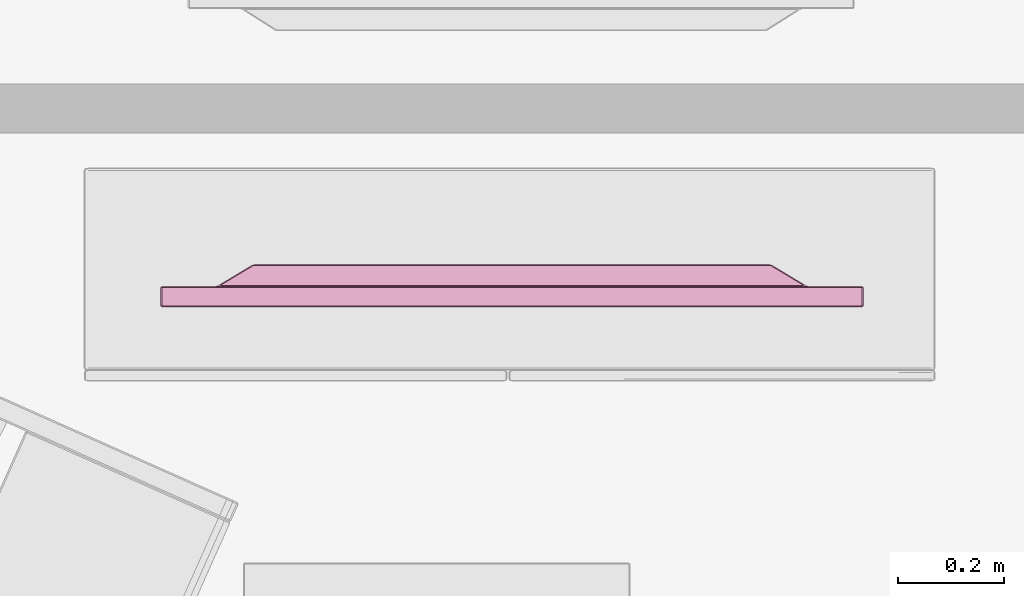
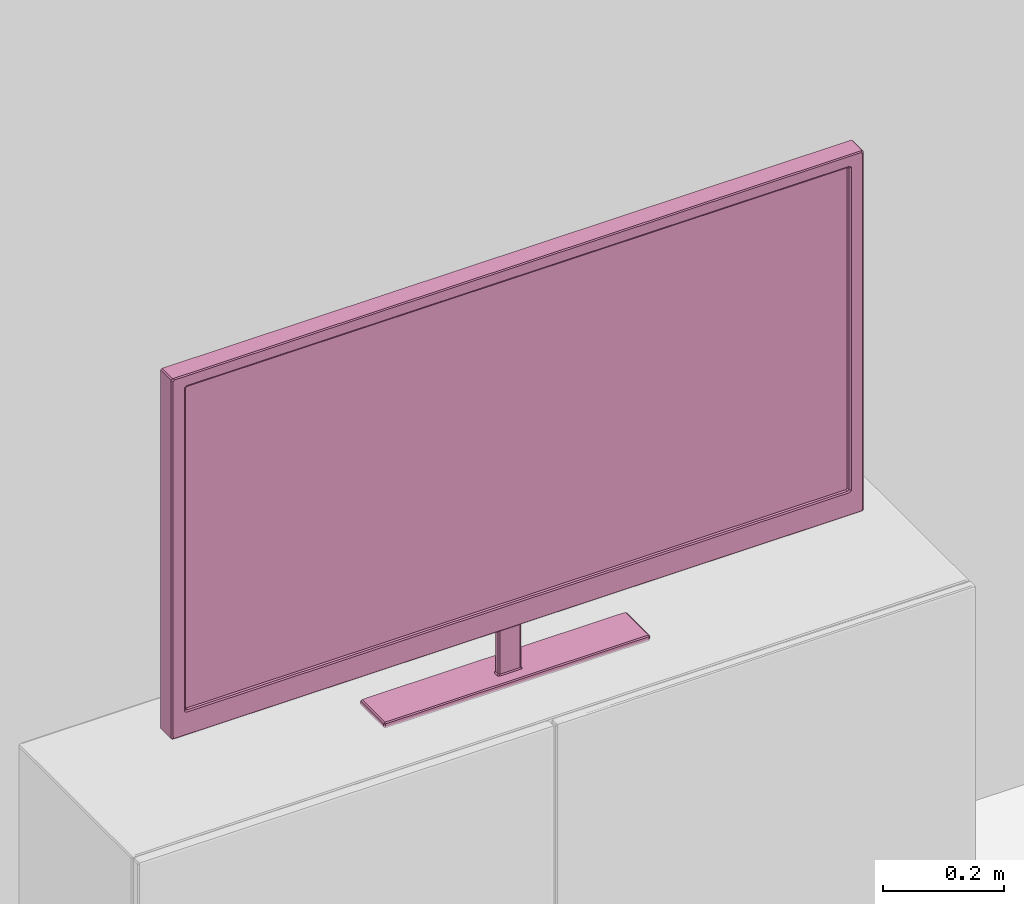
# One storey, part 12 of 26: 1 furniture element.
"""IFC4 building model written with IfcOpenShell, lengths in metres."""

from ifc_helpers import new_model, si_unit, direction, frame, origin_with_axes, place, context, project, spatial, polygons, type_object, element, save


model = new_model("IFC4")

# Units and contexts
model_context = context("Model", 3, precision=1e-05, world=origin_with_axes(), true_north=direction((0.996, -0.093, 0.0)))
ifc_project = project(units=[si_unit("LENGTHUNIT", "METRE"), si_unit("AREAUNIT", "SQUARE_METRE")], contexts=[model_context])

# Site, building, storey, space
site_placement = place(None, origin_with_axes())
site = spatial("IfcSite", under=ifc_project, at=site_placement, Name="Site", CompositionType="ELEMENT")
building_placement = place(site_placement, origin_with_axes())
building = spatial("IfcBuilding", under=site, at=building_placement, Name="Building", CompositionType="ELEMENT")
storey_placement = place(building_placement, frame((0.0, 0.0, 0.0500001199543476), z_axis=(0.0, 0.0, 1.0), x_axis=(1.0, 0.0, 0.0)))
storey = spatial("IfcBuildingStorey", under=building, at=storey_placement, Name="Story 0", CompositionType="ELEMENT", Elevation=0.0500000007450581)
space_placement = place(storey_placement, frame((9.93545334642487, 0.769256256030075, 0.0), z_axis=(0.0, 0.0, 1.0), x_axis=(1.0, 0.0, 0.0)))
space = spatial("IfcSpace", under=storey, at=space_placement, Name="021", CompositionType="ELEMENT")

# Furniture
furniture_type = type_object("IfcFurnitureType", Name="80757f26-422a-486f-adbd-0c8f0950d08d", AssemblyPlace="NOTDEFINED", PredefinedType="USERDEFINED")
furniture_placement = place(space_placement, frame((-1.20295136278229, -0.287239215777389, 1.22750790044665), z_axis=(0.0, 0.0, 0.999999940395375), x_axis=(0.0, -0.999999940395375, 0.0)))
element("IfcFurniture", 1, at=furniture_placement, inside=space, type_object=furniture_type, Name="Television", ObjectType="Television", PredefinedType="USERDEFINED", context=model_context, shape_type="Tessellation", body=[
    polygons([(0.0288, -0.6267, -0.2505), (0.0288, 0.6267, -0.2505), (0.0288, -0.6292, -0.2482), (0.0288, -0.6292, 0.3928), (0.0288, -0.6292, -0.2482), (0.0288, -0.6267, 0.3951), (0.0288, 0.6267, 0.3951), (0.0288, -0.6267, 0.3951), (0.0288, 0.6292, 0.3928), (0.0288, -0.6267, 0.3951), (0.0288, -0.6292, -0.2482), (0.0288, 0.6292, 0.3928), (0.0288, -0.6292, -0.2482), (0.0288, 0.6267, -0.2505), (0.0288, 0.6292, 0.3928), (0.0288, 0.6267, -0.2505), (0.0288, 0.6292, -0.2482), (0.0288, 0.6292, 0.3928), (0.003, -0.6609, 0.4215), (0.003, -0.6609, -0.3021), (0.038, -0.6609, 0.4215), (0.038, -0.6609, -0.3021), (0.038, -0.6609, 0.4215), (0.003, -0.6609, -0.3021), (0.003, 0.6609, -0.3021), (0.003, 0.6609, 0.4215), (0.038, 0.6609, -0.3021), (0.038, 0.6609, 0.4215), (0.038, 0.6609, -0.3021), (0.003, 0.6609, 0.4215), (0.003, 0.6584, 0.4237), (0.003, -0.6584, 0.4237), (0.038, 0.6584, 0.4237), (0.038, -0.6584, 0.4237), (0.038, 0.6584, 0.4237), (0.003, -0.6584, 0.4237), (0.0143, -0.0228, -0.2782), (0.0062, -0.0228, -0.2782), (0.0143, -0.0228, -0.4092), (0.0062, -0.0228, -0.4092), (0.0143, -0.0228, -0.4092), (0.0062, -0.0228, -0.2782), (0.0162, 0.0181, -0.2782), (0.0162, -0.0203, -0.2782), (0.0162, 0.0181, -0.4092), (0.0162, -0.0203, -0.4092), (0.0162, 0.0181, -0.4092), (0.0162, -0.0203, -0.2782), (0.0062, 0.0205, -0.2782), (0.0143, 0.0205, -0.2782), (0.0062, 0.0205, -0.4092), (0.0143, 0.0205, -0.4092), (0.0062, 0.0205, -0.4092), (0.0143, 0.0205, -0.2782), (-0.04, 0.4844, -0.1705), (-0.04, -0.4844, -0.1705), (-0.04, 0.4844, 0.2899), (-0.04, -0.4844, 0.2899), (-0.04, 0.4844, 0.2899), (-0.04, -0.4844, -0.1705), (0.0043, 0.0181, -0.4092), (0.0043, -0.0203, -0.4092), (0.0043, 0.0181, -0.2782), (0.0043, -0.0203, -0.2782), (0.0043, 0.0181, -0.2782), (0.0043, -0.0203, -0.4092), (0.038, -0.6584, -0.3044), (0.003, -0.6584, -0.3044), (0.038, 0.6584, -0.3044), (0.003, 0.6584, -0.3044), (0.038, 0.6584, -0.3044), (0.003, -0.6584, -0.3044), (-0.0379, -0.2528, -0.4237), (-0.0379, 0.2505, -0.4237), (0.0382, -0.2528, -0.4237), (0.0382, 0.2505, -0.4237), (0.0382, -0.2528, -0.4237), (-0.0379, 0.2505, -0.4237), (0.0399, -0.6326, -0.2572), (0.0399, -0.657, -0.3021), (0.0399, 0.6326, -0.2572), (0.0399, 0.657, -0.3021), (0.0399, 0.6326, -0.2572), (0.0399, -0.657, -0.3021), (0.0399, -0.6366, 0.3986), (0.0399, -0.6584, 0.4184), (0.0399, -0.6366, -0.2545), (0.0399, -0.6584, -0.2948), (0.0399, -0.6366, -0.2545), (0.0399, -0.6584, 0.4184), (0.0399, 0.6331, 0.4018), (0.0399, 0.655, 0.4215), (0.0399, -0.6331, 0.4018), (0.0399, -0.655, 0.4215), (0.0399, -0.6331, 0.4018), (0.0399, 0.655, 0.4215), (0.0399, 0.6584, -0.2948), (0.0399, 0.6584, 0.4184), (0.0399, 0.6366, -0.2545), (0.0399, 0.6366, 0.3986), (0.0399, 0.6366, -0.2545), (0.0399, 0.6584, 0.4184), (0.0288, -0.6267, -0.2505), (0.0381, -0.6308, -0.2543), (0.0288, 0.6267, -0.2505), (0.0381, 0.6308, -0.2543), (0.0288, 0.6267, -0.2505), (0.0381, -0.6308, -0.2543), (0.0288, -0.6292, 0.3928), (0.0381, -0.6334, 0.3965), (0.0288, -0.6292, -0.2482), (0.0381, -0.6334, -0.2519), (0.0288, -0.6292, -0.2482), (0.0381, -0.6334, 0.3965), (0.0288, 0.6267, 0.3951), (0.0381, 0.6308, 0.3988), (0.0288, -0.6267, 0.3951), (0.0381, -0.6308, 0.3988), (0.0288, -0.6267, 0.3951), (0.0381, 0.6308, 0.3988), (0.0288, 0.6292, -0.2482), (0.0381, 0.6334, -0.2519), (0.0288, 0.6292, 0.3928), (0.0381, 0.6334, 0.3965), (0.0288, 0.6292, 0.3928), (0.0381, 0.6334, -0.2519), (0.0011, -0.5579, -0.2134), (0.0011, -0.6584, -0.2992), (0.0011, -0.5579, 0.3327), (0.0011, -0.6584, 0.4186), (0.0011, -0.5579, 0.3327), (0.0011, -0.6584, -0.2992), (0.0011, 0.5545, -0.2165), (0.0011, 0.6547, -0.3021), (0.0011, -0.5545, -0.2165), (0.0011, -0.6547, -0.3021), (0.0011, -0.5545, -0.2165), (0.0011, 0.6547, -0.3021), (0.0011, 0.5579, 0.3327), (0.0011, 0.6584, 0.4186), (0.0011, 0.5579, -0.2134), (0.0011, 0.6584, -0.2992), (0.0011, 0.5579, -0.2134), (0.0011, 0.6584, 0.4186), (0.0011, -0.5545, 0.3359), (0.0011, -0.6547, 0.4215), (0.0011, 0.5545, 0.3359), (0.0011, 0.6547, 0.4215), (0.0011, 0.5545, 0.3359), (0.0011, -0.6547, 0.4215), (-0.0389, -0.4888, 0.2908), (-0.0389, -0.4888, -0.1714), (0.0, -0.5535, 0.33), (0.0, -0.5535, -0.2107), (0.0, -0.5535, 0.33), (-0.0389, -0.4888, -0.1714), (-0.0386, -0.4858, -0.1742), (-0.0386, 0.4858, -0.1742), (-0.0003, -0.5497, -0.2129), (-0.0003, 0.5497, -0.2129), (-0.0003, -0.5497, -0.2129), (-0.0386, 0.4858, -0.1742), (-0.0389, 0.4888, -0.1714), (-0.0389, 0.4888, 0.2908), (0.0, 0.5535, -0.2107), (0.0, 0.5535, 0.33), (0.0, 0.5535, -0.2107), (-0.0389, 0.4888, 0.2908), (-0.0386, 0.4858, 0.2935), (-0.0386, -0.4858, 0.2935), (-0.0003, 0.5497, 0.3323), (-0.0003, -0.5497, 0.3323), (-0.0003, 0.5497, 0.3323), (-0.0386, -0.4858, 0.2935), (0.04, 0.2505, -0.4215), (0.04, 0.2505, -0.4138), (0.04, -0.2528, -0.4215), (0.04, -0.2528, -0.4138), (0.04, -0.2528, -0.4215), (0.04, 0.2505, -0.4138), (-0.0379, 0.253, -0.4215), (-0.0379, 0.253, -0.4138), (0.0382, 0.253, -0.4215), (0.0382, 0.253, -0.4138), (0.0382, 0.253, -0.4215), (-0.0379, 0.253, -0.4138), (-0.0397, -0.2528, -0.4215), (-0.0397, -0.2528, -0.4138), (-0.0397, 0.2505, -0.4215), (-0.0397, 0.2505, -0.4138), (-0.0397, 0.2505, -0.4215), (-0.0397, -0.2528, -0.4138), (0.0382, -0.2552, -0.4215), (0.0382, -0.2552, -0.4138), (-0.0379, -0.2552, -0.4215), (-0.0379, -0.2552, -0.4138), (-0.0379, -0.2552, -0.4215), (0.0382, -0.2552, -0.4138), (-0.0374, -0.2528, -0.4115), (0.0379, -0.2528, -0.4115), (0.0058, -0.0252, -0.4115), (0.0146, -0.0252, -0.4115), (0.0058, -0.0252, -0.4115), (0.0379, -0.2528, -0.4115), (0.0025, 0.0202, -0.4115), (-0.0379, 0.2332, -0.4115), (0.0025, -0.0225, -0.4115), (-0.0379, -0.2355, -0.4115), (0.0025, -0.0225, -0.4115), (-0.0379, 0.2332, -0.4115), (0.0146, 0.023, -0.4115), (0.0379, 0.2505, -0.4116), (0.0058, 0.023, -0.4115), (-0.0374, 0.2505, -0.4116), (0.0058, 0.023, -0.4115), (0.0379, 0.2505, -0.4116), (0.018, -0.0226, -0.4115), (0.0382, -0.2191, -0.4115), (0.018, 0.0204, -0.4115), (0.0382, 0.2169, -0.4115), (0.018, 0.0204, -0.4115), (0.0382, -0.2191, -0.4115), (0.0346, -0.6464, -0.2633), (0.0346, 0.6464, -0.2633), (0.0346, -0.6464, 0.4078), (0.0346, 0.6464, 0.4078), (0.0346, -0.6464, 0.4078), (0.0346, 0.6464, -0.2633), (0.0399, -0.655, 0.4215), (0.038, -0.6584, 0.4237), (0.0399, -0.6584, 0.4184), (0.038, -0.6609, 0.4215), (0.0399, -0.6584, 0.4184), (0.038, -0.6584, 0.4237), (0.0011, 0.6547, 0.4215), (0.003, 0.6584, 0.4237), (0.0011, 0.6584, 0.4186), (0.003, 0.6609, 0.4215), (0.0011, 0.6584, 0.4186), (0.003, 0.6584, 0.4237), (0.0399, 0.6584, 0.4184), (0.038, 0.6609, 0.4215), (0.0399, 0.655, 0.4215), (0.038, 0.6584, 0.4237), (0.0399, 0.655, 0.4215), (0.038, 0.6609, 0.4215), (0.0058, -0.0252, -0.4115), (0.0062, -0.0228, -0.4092), (0.0025, -0.0225, -0.4115), (0.0043, -0.0203, -0.4092), (0.0025, -0.0225, -0.4115), (0.0062, -0.0228, -0.4092), (0.0146, -0.0252, -0.4115), (0.018, -0.0226, -0.4115), (0.0143, -0.0228, -0.4092), (0.0162, -0.0203, -0.4092), (0.0143, -0.0228, -0.4092), (0.018, -0.0226, -0.4115), (0.0146, 0.023, -0.4115), (0.0143, 0.0205, -0.4092), (0.018, 0.0204, -0.4115), (0.0162, 0.0181, -0.4092), (0.018, 0.0204, -0.4115), (0.0143, 0.0205, -0.4092), (-0.0386, -0.4858, 0.2935), (-0.04, -0.4844, 0.2899), (-0.0389, -0.4888, 0.2908), (0.0058, 0.023, -0.4115), (0.0025, 0.0202, -0.4115), (0.0062, 0.0205, -0.4092), (0.0043, 0.0181, -0.4092), (0.0062, 0.0205, -0.4092), (0.0025, 0.0202, -0.4115), (0.0011, -0.6547, -0.3021), (0.003, -0.6584, -0.3044), (0.0011, -0.6584, -0.2992), (0.003, -0.6609, -0.3021), (0.0011, -0.6584, -0.2992), (0.003, -0.6584, -0.3044), (0.0399, -0.6584, -0.2948), (0.038, -0.6609, -0.3021), (0.0399, -0.657, -0.3021), (0.038, -0.6584, -0.3044), (0.0399, -0.657, -0.3021), (0.038, -0.6609, -0.3021), (0.0382, -0.2552, -0.4215), (0.0382, -0.2528, -0.4237), (0.04, -0.2528, -0.4215), (0.0399, 0.6584, -0.2948), (0.0399, 0.657, -0.3021), (0.038, 0.6609, -0.3021), (0.038, 0.6584, -0.3044), (0.038, 0.6609, -0.3021), (0.0399, 0.657, -0.3021), (0.0381, -0.6334, -0.2519), (0.0399, -0.6366, -0.2545), (0.0381, -0.6308, -0.2543), (0.0399, -0.6326, -0.2572), (0.0381, -0.6308, -0.2543), (0.0399, -0.6366, -0.2545), (0.0381, -0.6308, 0.3988), (0.0399, -0.6331, 0.4018), (0.0381, -0.6334, 0.3965), (0.0399, -0.6366, 0.3986), (0.0381, -0.6334, 0.3965), (0.0399, -0.6331, 0.4018), (0.0381, 0.6334, 0.3965), (0.0399, 0.6366, 0.3986), (0.0381, 0.6308, 0.3988), (0.0399, 0.6331, 0.4018), (0.0381, 0.6308, 0.3988), (0.0399, 0.6366, 0.3986), (0.0381, 0.6334, -0.2519), (0.0381, 0.6308, -0.2543), (0.0399, 0.6366, -0.2545), (0.0399, 0.6326, -0.2572), (0.0399, 0.6366, -0.2545), (0.0381, 0.6308, -0.2543), (0.0011, -0.6547, 0.4215), (0.0011, -0.6584, 0.4186), (0.003, -0.6584, 0.4237), (0.003, -0.6609, 0.4215), (0.003, -0.6584, 0.4237), (0.0011, -0.6584, 0.4186), (-0.0003, -0.5497, 0.3323), (0.0, -0.5535, 0.33), (0.0011, -0.5545, 0.3359), (0.0011, -0.5579, 0.3327), (0.0011, -0.5545, 0.3359), (0.0, -0.5535, 0.33), (-0.0003, -0.5497, -0.2129), (0.0011, -0.5545, -0.2165), (0.0, -0.5535, -0.2107), (0.0011, -0.5579, -0.2134), (0.0, -0.5535, -0.2107), (0.0011, -0.5545, -0.2165), (0.0011, 0.6547, -0.3021), (0.0011, 0.6584, -0.2992), (0.003, 0.6584, -0.3044), (0.003, 0.6609, -0.3021), (0.003, 0.6584, -0.3044), (0.0011, 0.6584, -0.2992), (-0.0003, 0.5497, -0.2129), (0.0, 0.5535, -0.2107), (0.0011, 0.5545, -0.2165), (0.0011, 0.5579, -0.2134), (0.0011, 0.5545, -0.2165), (0.0, 0.5535, -0.2107), (-0.0003, 0.5497, 0.3323), (0.0011, 0.5545, 0.3359), (0.0, 0.5535, 0.33), (0.0011, 0.5579, 0.3327), (0.0, 0.5535, 0.33), (0.0011, 0.5545, 0.3359), (-0.0386, -0.4858, -0.1742), (-0.0389, -0.4888, -0.1714), (-0.04, -0.4844, -0.1705), (-0.0389, 0.4888, -0.1714), (-0.0386, 0.4858, -0.1742), (-0.04, 0.4844, -0.1705), (-0.0386, 0.4858, 0.2935), (-0.0389, 0.4888, 0.2908), (-0.04, 0.4844, 0.2899), (0.0382, 0.253, -0.4215), (0.04, 0.2505, -0.4215), (0.0382, 0.2505, -0.4237), (-0.0397, 0.2505, -0.4215), (-0.0379, 0.253, -0.4215), (-0.0379, 0.2505, -0.4237), (-0.0379, -0.2552, -0.4215), (-0.0397, -0.2528, -0.4215), (-0.0379, -0.2528, -0.4237), (-0.0379, -0.2355, -0.4115), (-0.0397, -0.2528, -0.4138), (-0.0374, -0.2528, -0.4115), (-0.0379, -0.2552, -0.4138), (-0.0374, -0.2528, -0.4115), (-0.0397, -0.2528, -0.4138), (0.0382, -0.2191, -0.4115), (0.0379, -0.2528, -0.4115), (0.04, -0.2528, -0.4138), (0.0382, -0.2552, -0.4138), (0.04, -0.2528, -0.4138), (0.0379, -0.2528, -0.4115), (-0.0379, 0.2332, -0.4115), (-0.0374, 0.2505, -0.4116), (-0.0397, 0.2505, -0.4138), (-0.0379, 0.253, -0.4138), (-0.0397, 0.2505, -0.4138), (-0.0374, 0.2505, -0.4116), (0.0382, 0.253, -0.4138), (0.0379, 0.2505, -0.4116), (0.04, 0.2505, -0.4138), (0.0382, 0.2169, -0.4115), (0.04, 0.2505, -0.4138), (0.0379, 0.2505, -0.4116), (0.038, -0.6609, -0.3021), (0.003, -0.6609, -0.3021), (0.038, -0.6584, -0.3044), (0.003, -0.6584, -0.3044), (0.038, -0.6584, -0.3044), (0.003, -0.6609, -0.3021), (0.003, -0.6609, 0.4215), (0.038, -0.6609, 0.4215), (0.003, -0.6584, 0.4237), (0.038, -0.6584, 0.4237), (0.003, -0.6584, 0.4237), (0.038, -0.6609, 0.4215), (0.038, 0.6609, 0.4215), (0.003, 0.6609, 0.4215), (0.038, 0.6584, 0.4237), (0.003, 0.6584, 0.4237), (0.038, 0.6584, 0.4237), (0.003, 0.6609, 0.4215), (0.003, 0.6609, -0.3021), (0.038, 0.6609, -0.3021), (0.003, 0.6584, -0.3044), (0.038, 0.6584, -0.3044), (0.003, 0.6584, -0.3044), (0.038, 0.6609, -0.3021), (0.0062, -0.0228, -0.4092), (0.0062, -0.0228, -0.2782), (0.0043, -0.0203, -0.4092), (0.0043, -0.0203, -0.2782), (0.0043, -0.0203, -0.4092), (0.0062, -0.0228, -0.2782), (0.0143, -0.0228, -0.2782), (0.0143, -0.0228, -0.4092), (0.0162, -0.0203, -0.2782), (0.0162, -0.0203, -0.4092), (0.0162, -0.0203, -0.2782), (0.0143, -0.0228, -0.4092), (0.0162, 0.0181, -0.2782), (0.0162, 0.0181, -0.4092), (0.0143, 0.0205, -0.2782), (0.0143, 0.0205, -0.4092), (0.0143, 0.0205, -0.2782), (0.0162, 0.0181, -0.4092), (0.0062, 0.0205, -0.2782), (0.0062, 0.0205, -0.4092), (0.0043, 0.0181, -0.2782), (0.0043, 0.0181, -0.4092), (0.0043, 0.0181, -0.2782), (0.0062, 0.0205, -0.4092), (-0.04, -0.4844, 0.2899), (-0.04, -0.4844, -0.1705), (-0.0389, -0.4888, 0.2908), (-0.0389, -0.4888, -0.1714), (-0.0389, -0.4888, 0.2908), (-0.04, -0.4844, -0.1705), (-0.04, -0.4844, -0.1705), (-0.04, 0.4844, -0.1705), (-0.0386, -0.4858, -0.1742), (-0.0386, 0.4858, -0.1742), (-0.0386, -0.4858, -0.1742), (-0.04, 0.4844, -0.1705), (-0.04, 0.4844, -0.1705), (-0.04, 0.4844, 0.2899), (-0.0389, 0.4888, -0.1714), (-0.0389, 0.4888, 0.2908), (-0.0389, 0.4888, -0.1714), (-0.04, 0.4844, 0.2899), (-0.04, 0.4844, 0.2899), (-0.04, -0.4844, 0.2899), (-0.0386, 0.4858, 0.2935), (-0.0386, -0.4858, 0.2935), (-0.0386, 0.4858, 0.2935), (-0.04, -0.4844, 0.2899), (0.0382, 0.2505, -0.4237), (-0.0379, 0.2505, -0.4237), (0.0382, 0.253, -0.4215), (-0.0379, 0.253, -0.4215), (0.0382, 0.253, -0.4215), (-0.0379, 0.2505, -0.4237), (-0.0379, 0.2505, -0.4237), (-0.0379, -0.2528, -0.4237), (-0.0397, 0.2505, -0.4215), (-0.0397, -0.2528, -0.4215), (-0.0397, 0.2505, -0.4215), (-0.0379, -0.2528, -0.4237), (-0.0379, -0.2528, -0.4237), (0.0382, -0.2528, -0.4237), (-0.0379, -0.2552, -0.4215), (0.0382, -0.2552, -0.4215), (-0.0379, -0.2552, -0.4215), (0.0382, -0.2528, -0.4237), (0.0382, -0.2528, -0.4237), (0.0382, 0.2505, -0.4237), (0.04, -0.2528, -0.4215), (0.04, 0.2505, -0.4215), (0.04, -0.2528, -0.4215), (0.0382, 0.2505, -0.4237), (0.0399, 0.657, -0.3021), (0.0399, -0.657, -0.3021), (0.038, 0.6584, -0.3044), (0.038, -0.6584, -0.3044), (0.038, 0.6584, -0.3044), (0.0399, -0.657, -0.3021), (0.0399, -0.657, -0.3021), (0.0399, -0.6326, -0.2572), (0.0399, -0.6584, -0.2948), (0.0399, -0.6366, -0.2545), (0.0399, -0.6584, -0.2948), (0.0399, -0.6326, -0.2572), (0.0399, -0.6584, -0.2948), (0.0399, -0.6584, 0.4184), (0.038, -0.6609, -0.3021), (0.038, -0.6609, 0.4215), (0.038, -0.6609, -0.3021), (0.0399, -0.6584, 0.4184), (0.0399, -0.6584, 0.4184), (0.0399, -0.6366, 0.3986), (0.0399, -0.655, 0.4215), (0.0399, -0.6331, 0.4018), (0.0399, -0.655, 0.4215), (0.0399, -0.6366, 0.3986), (0.0399, -0.655, 0.4215), (0.0399, 0.655, 0.4215), (0.038, -0.6584, 0.4237), (0.038, 0.6584, 0.4237), (0.038, -0.6584, 0.4237), (0.0399, 0.655, 0.4215), (0.0399, 0.655, 0.4215), (0.0399, 0.6331, 0.4018), (0.0399, 0.6584, 0.4184), (0.0399, 0.6366, 0.3986), (0.0399, 0.6584, 0.4184), (0.0399, 0.6331, 0.4018), (0.0399, 0.6584, 0.4184), (0.0399, 0.6584, -0.2948), (0.038, 0.6609, 0.4215), (0.038, 0.6609, -0.3021), (0.038, 0.6609, 0.4215), (0.0399, 0.6584, -0.2948), (0.0399, 0.6584, -0.2948), (0.0399, 0.6366, -0.2545), (0.0399, 0.657, -0.3021), (0.0399, 0.6326, -0.2572), (0.0399, 0.657, -0.3021), (0.0399, 0.6366, -0.2545), (0.0381, 0.6308, -0.2543), (0.0381, -0.6308, -0.2543), (0.0399, 0.6326, -0.2572), (0.0399, -0.6326, -0.2572), (0.0399, 0.6326, -0.2572), (0.0381, -0.6308, -0.2543), (0.0381, -0.6308, -0.2543), (0.0288, -0.6267, -0.2505), (0.0381, -0.6334, -0.2519), (0.0288, -0.6292, -0.2482), (0.0381, -0.6334, -0.2519), (0.0288, -0.6267, -0.2505), (0.0381, -0.6334, -0.2519), (0.0381, -0.6334, 0.3965), (0.0399, -0.6366, -0.2545), (0.0399, -0.6366, 0.3986), (0.0399, -0.6366, -0.2545), (0.0381, -0.6334, 0.3965), (0.0381, -0.6334, 0.3965), (0.0288, -0.6292, 0.3928), (0.0381, -0.6308, 0.3988), (0.0288, -0.6267, 0.3951), (0.0381, -0.6308, 0.3988), (0.0288, -0.6292, 0.3928), (0.0381, -0.6308, 0.3988), (0.0381, 0.6308, 0.3988), (0.0399, -0.6331, 0.4018), (0.0399, 0.6331, 0.4018), (0.0399, -0.6331, 0.4018), (0.0381, 0.6308, 0.3988), (0.0381, 0.6308, 0.3988), (0.0288, 0.6267, 0.3951), (0.0381, 0.6334, 0.3965), (0.0288, 0.6292, 0.3928), (0.0381, 0.6334, 0.3965), (0.0288, 0.6267, 0.3951), (0.0381, 0.6334, 0.3965), (0.0381, 0.6334, -0.2519), (0.0399, 0.6366, 0.3986), (0.0399, 0.6366, -0.2545), (0.0399, 0.6366, 0.3986), (0.0381, 0.6334, -0.2519), (0.0381, 0.6334, -0.2519), (0.0288, 0.6292, -0.2482), (0.0381, 0.6308, -0.2543), (0.0288, 0.6267, -0.2505), (0.0381, 0.6308, -0.2543), (0.0288, 0.6292, -0.2482), (0.0011, -0.6584, 0.4186), (0.0011, -0.6584, -0.2992), (0.003, -0.6609, 0.4215), (0.003, -0.6609, -0.3021), (0.003, -0.6609, 0.4215), (0.0011, -0.6584, -0.2992), (0.0011, -0.6584, -0.2992), (0.0011, -0.5579, -0.2134), (0.0011, -0.6547, -0.3021), (0.0011, -0.5545, -0.2165), (0.0011, -0.6547, -0.3021), (0.0011, -0.5579, -0.2134), (0.0011, -0.5579, -0.2134), (0.0011, -0.5579, 0.3327), (0.0, -0.5535, -0.2107), (0.0, -0.5535, 0.33), (0.0, -0.5535, -0.2107), (0.0011, -0.5579, 0.3327), (0.0011, -0.6547, -0.3021), (0.0011, 0.6547, -0.3021), (0.003, -0.6584, -0.3044), (0.003, 0.6584, -0.3044), (0.003, -0.6584, -0.3044), (0.0011, 0.6547, -0.3021), (0.0011, 0.6547, -0.3021), (0.0011, 0.5545, -0.2165), (0.0011, 0.6584, -0.2992), (0.0011, 0.5579, -0.2134), (0.0011, 0.6584, -0.2992), (0.0011, 0.5545, -0.2165), (0.0011, 0.5545, -0.2165), (0.0011, -0.5545, -0.2165), (-0.0003, 0.5497, -0.2129), (-0.0003, -0.5497, -0.2129), (-0.0003, 0.5497, -0.2129), (0.0011, -0.5545, -0.2165), (0.0011, 0.6584, -0.2992), (0.0011, 0.6584, 0.4186), (0.003, 0.6609, -0.3021), (0.003, 0.6609, 0.4215), (0.003, 0.6609, -0.3021), (0.0011, 0.6584, 0.4186), (0.0011, 0.6584, 0.4186), (0.0011, 0.5579, 0.3327), (0.0011, 0.6547, 0.4215), (0.0011, 0.5545, 0.3359), (0.0011, 0.6547, 0.4215), (0.0011, 0.5579, 0.3327), (0.0011, 0.5579, 0.3327), (0.0011, 0.5579, -0.2134), (0.0, 0.5535, 0.33), (0.0, 0.5535, -0.2107), (0.0, 0.5535, 0.33), (0.0011, 0.5579, -0.2134), (0.0011, 0.6547, 0.4215), (0.0011, -0.6547, 0.4215), (0.003, 0.6584, 0.4237), (0.003, -0.6584, 0.4237), (0.003, 0.6584, 0.4237), (0.0011, -0.6547, 0.4215), (0.0011, -0.6547, 0.4215), (0.0011, -0.5545, 0.3359), (0.0011, -0.6584, 0.4186), (0.0011, -0.5579, 0.3327), (0.0011, -0.6584, 0.4186), (0.0011, -0.5545, 0.3359), (0.0011, -0.5545, 0.3359), (0.0011, 0.5545, 0.3359), (-0.0003, -0.5497, 0.3323), (-0.0003, 0.5497, 0.3323), (-0.0003, -0.5497, 0.3323), (0.0011, 0.5545, 0.3359), (0.0, -0.5535, -0.2107), (-0.0389, -0.4888, -0.1714), (-0.0003, -0.5497, -0.2129), (-0.0386, -0.4858, -0.1742), (-0.0003, -0.5497, -0.2129), (-0.0389, -0.4888, -0.1714), (-0.0003, 0.5497, -0.2129), (-0.0386, 0.4858, -0.1742), (0.0, 0.5535, -0.2107), (-0.0389, 0.4888, -0.1714), (0.0, 0.5535, -0.2107), (-0.0386, 0.4858, -0.1742), (0.0, 0.5535, 0.33), (-0.0389, 0.4888, 0.2908), (-0.0003, 0.5497, 0.3323), (-0.0386, 0.4858, 0.2935), (-0.0003, 0.5497, 0.3323), (-0.0389, 0.4888, 0.2908), (-0.0003, -0.5497, 0.3323), (-0.0386, -0.4858, 0.2935), (0.0, -0.5535, 0.33), (-0.0389, -0.4888, 0.2908), (0.0, -0.5535, 0.33), (-0.0386, -0.4858, 0.2935), (0.04, 0.2505, -0.4138), (0.04, 0.2505, -0.4215), (0.0382, 0.253, -0.4138), (0.0382, 0.253, -0.4215), (0.0382, 0.253, -0.4138), (0.04, 0.2505, -0.4215), (-0.0379, 0.253, -0.4138), (-0.0379, 0.253, -0.4215), (-0.0397, 0.2505, -0.4138), (-0.0397, 0.2505, -0.4215), (-0.0397, 0.2505, -0.4138), (-0.0379, 0.253, -0.4215), (-0.0397, -0.2528, -0.4138), (-0.0397, -0.2528, -0.4215), (-0.0379, -0.2552, -0.4138), (-0.0379, -0.2552, -0.4215), (-0.0379, -0.2552, -0.4138), (-0.0397, -0.2528, -0.4215), (0.0382, -0.2552, -0.4138), (0.0382, -0.2552, -0.4215), (0.04, -0.2528, -0.4138), (0.04, -0.2528, -0.4215), (0.04, -0.2528, -0.4138), (0.0382, -0.2552, -0.4215), (0.0379, -0.2528, -0.4115), (-0.0374, -0.2528, -0.4115), (0.0382, -0.2552, -0.4138), (-0.0379, -0.2552, -0.4138), (0.0382, -0.2552, -0.4138), (-0.0374, -0.2528, -0.4115), (-0.0374, -0.2528, -0.4115), (0.0058, -0.0252, -0.4115), (-0.0379, -0.2355, -0.4115), (0.0025, -0.0225, -0.4115), (-0.0379, -0.2355, -0.4115), (0.0058, -0.0252, -0.4115), (0.0058, -0.0252, -0.4115), (0.0146, -0.0252, -0.4115), (0.0062, -0.0228, -0.4092), (0.0143, -0.0228, -0.4092), (0.0062, -0.0228, -0.4092), (0.0146, -0.0252, -0.4115), (-0.0379, -0.2355, -0.4115), (-0.0379, 0.2332, -0.4115), (-0.0397, -0.2528, -0.4138), (-0.0397, 0.2505, -0.4138), (-0.0397, -0.2528, -0.4138), (-0.0379, 0.2332, -0.4115), (-0.0379, 0.2332, -0.4115), (0.0025, 0.0202, -0.4115), (-0.0374, 0.2505, -0.4116), (0.0058, 0.023, -0.4115), (-0.0374, 0.2505, -0.4116), (0.0025, 0.0202, -0.4115), (0.0025, 0.0202, -0.4115), (0.0025, -0.0225, -0.4115), (0.0043, 0.0181, -0.4092), (0.0043, -0.0203, -0.4092), (0.0043, 0.0181, -0.4092), (0.0025, -0.0225, -0.4115), (-0.0374, 0.2505, -0.4116), (0.0379, 0.2505, -0.4116), (-0.0379, 0.253, -0.4138), (0.0382, 0.253, -0.4138), (-0.0379, 0.253, -0.4138), (0.0379, 0.2505, -0.4116), (0.0379, 0.2505, -0.4116), (0.0146, 0.023, -0.4115), (0.0382, 0.2169, -0.4115), (0.018, 0.0204, -0.4115), (0.0382, 0.2169, -0.4115), (0.0146, 0.023, -0.4115), (0.0146, 0.023, -0.4115), (0.0058, 0.023, -0.4115), (0.0143, 0.0205, -0.4092), (0.0062, 0.0205, -0.4092), (0.0143, 0.0205, -0.4092), (0.0058, 0.023, -0.4115), (0.0382, 0.2169, -0.4115), (0.0382, -0.2191, -0.4115), (0.04, 0.2505, -0.4138), (0.04, -0.2528, -0.4138), (0.04, 0.2505, -0.4138), (0.0382, -0.2191, -0.4115), (0.0382, -0.2191, -0.4115), (0.018, -0.0226, -0.4115), (0.0379, -0.2528, -0.4115), (0.0146, -0.0252, -0.4115), (0.0379, -0.2528, -0.4115), (0.018, -0.0226, -0.4115), (0.018, -0.0226, -0.4115), (0.018, 0.0204, -0.4115), (0.0162, -0.0203, -0.4092), (0.0162, 0.0181, -0.4092), (0.0162, -0.0203, -0.4092), (0.018, 0.0204, -0.4115)], [[[1, 2, 3]], [[4, 5, 6]], [[7, 8, 9]], [[10, 11, 12]], [[13, 14, 15]], [[16, 17, 18]], [[19, 20, 21]], [[22, 23, 24]], [[25, 26, 27]], [[28, 29, 30]], [[31, 32, 33]], [[34, 35, 36]], [[37, 38, 39]], [[40, 41, 42]], [[43, 44, 45]], [[46, 47, 48]], [[49, 50, 51]], [[52, 53, 54]], [[55, 56, 57]], [[58, 59, 60]], [[61, 62, 63]], [[64, 65, 66]], [[67, 68, 69]], [[70, 71, 72]], [[73, 74, 75]], [[76, 77, 78]], [[79, 80, 81]], [[82, 83, 84]], [[85, 86, 87]], [[88, 89, 90]], [[91, 92, 93]], [[94, 95, 96]], [[97, 98, 99]], [[100, 101, 102]], [[103, 104, 105]], [[106, 107, 108]], [[109, 110, 111]], [[112, 113, 114]], [[115, 116, 117]], [[118, 119, 120]], [[121, 122, 123]], [[124, 125, 126]], [[127, 128, 129]], [[130, 131, 132]], [[133, 134, 135]], [[136, 137, 138]], [[139, 140, 141]], [[142, 143, 144]], [[145, 146, 147]], [[148, 149, 150]], [[151, 152, 153]], [[154, 155, 156]], [[157, 158, 159]], [[160, 161, 162]], [[163, 164, 165]], [[166, 167, 168]], [[169, 170, 171]], [[172, 173, 174]], [[175, 176, 177]], [[178, 179, 180]], [[181, 182, 183]], [[184, 185, 186]], [[187, 188, 189]], [[190, 191, 192]], [[193, 194, 195]], [[196, 197, 198]], [[199, 200, 201]], [[202, 203, 204]], [[205, 206, 207]], [[208, 209, 210]], [[211, 212, 213]], [[214, 215, 216]], [[217, 218, 219]], [[220, 221, 222]], [[223, 224, 225]], [[226, 227, 228]], [[229, 230, 231]], [[232, 233, 234]], [[235, 236, 237]], [[238, 239, 240]], [[241, 242, 243]], [[244, 245, 246]], [[247, 248, 249]], [[250, 251, 252]], [[253, 254, 255]], [[256, 257, 258]], [[259, 260, 261]], [[262, 263, 264]], [[265, 266, 267]], [[268, 269, 270]], [[271, 272, 273]], [[274, 275, 276]], [[277, 278, 279]], [[280, 281, 282]], [[283, 284, 285]], [[286, 287, 288]], [[289, 290, 291]], [[292, 293, 294]], [[295, 296, 297]], [[298, 299, 300]], [[301, 302, 303]], [[304, 305, 306]], [[307, 308, 309]], [[310, 311, 312]], [[313, 314, 315]], [[316, 317, 318]], [[319, 320, 321]], [[322, 323, 324]], [[325, 326, 327]], [[328, 329, 330]], [[331, 332, 333]], [[334, 335, 336]], [[337, 338, 339]], [[340, 341, 342]], [[343, 344, 345]], [[346, 347, 348]], [[349, 350, 351]], [[352, 353, 354]], [[355, 356, 357]], [[358, 359, 360]], [[361, 362, 363]], [[364, 365, 366]], [[367, 368, 369]], [[370, 371, 372]], [[373, 374, 375]], [[376, 377, 378]], [[379, 380, 381]], [[382, 383, 384]], [[385, 386, 387]], [[388, 389, 390]], [[391, 392, 393]], [[394, 395, 396]], [[397, 398, 399]], [[400, 401, 402]], [[403, 404, 405]], [[406, 407, 408]], [[409, 410, 411]], [[412, 413, 414]], [[415, 416, 417]], [[418, 419, 420]], [[421, 422, 423]], [[424, 425, 426]], [[427, 428, 429]], [[430, 431, 432]], [[433, 434, 435]], [[436, 437, 438]], [[439, 440, 441]], [[442, 443, 444]], [[445, 446, 447]], [[448, 449, 450]], [[451, 452, 453]], [[454, 455, 456]], [[457, 458, 459]], [[460, 461, 462]], [[463, 464, 465]], [[466, 467, 468]], [[469, 470, 471]], [[472, 473, 474]], [[475, 476, 477]], [[478, 479, 480]], [[481, 482, 483]], [[484, 485, 486]], [[487, 488, 489]], [[490, 491, 492]], [[493, 494, 495]], [[496, 497, 498]], [[499, 500, 501]], [[502, 503, 504]], [[505, 506, 507]], [[508, 509, 510]], [[511, 512, 513]], [[514, 515, 516]], [[517, 518, 519]], [[520, 521, 522]], [[523, 524, 525]], [[526, 527, 528]], [[529, 530, 531]], [[532, 533, 534]], [[535, 536, 537]], [[538, 539, 540]], [[541, 542, 543]], [[544, 545, 546]], [[547, 548, 549]], [[550, 551, 552]], [[553, 554, 555]], [[556, 557, 558]], [[559, 560, 561]], [[562, 563, 564]], [[565, 566, 567]], [[568, 569, 570]], [[571, 572, 573]], [[574, 575, 576]], [[577, 578, 579]], [[580, 581, 582]], [[583, 584, 585]], [[586, 587, 588]], [[589, 590, 591]], [[592, 593, 594]], [[595, 596, 597]], [[598, 599, 600]], [[601, 602, 603]], [[604, 605, 606]], [[607, 608, 609]], [[610, 611, 612]], [[613, 614, 615]], [[616, 617, 618]], [[619, 620, 621]], [[622, 623, 624]], [[625, 626, 627]], [[628, 629, 630]], [[631, 632, 633]], [[634, 635, 636]], [[637, 638, 639]], [[640, 641, 642]], [[643, 644, 645]], [[646, 647, 648]], [[649, 650, 651]], [[652, 653, 654]], [[655, 656, 657]], [[658, 659, 660]], [[661, 662, 663]], [[664, 665, 666]], [[667, 668, 669]], [[670, 671, 672]], [[673, 674, 675]], [[676, 677, 678]], [[679, 680, 681]], [[682, 683, 684]], [[685, 686, 687]], [[688, 689, 690]], [[691, 692, 693]], [[694, 695, 696]], [[697, 698, 699]], [[700, 701, 702]], [[703, 704, 705]], [[706, 707, 708]], [[709, 710, 711]], [[712, 713, 714]], [[715, 716, 717]], [[718, 719, 720]], [[721, 722, 723]], [[724, 725, 726]], [[727, 728, 729]], [[730, 731, 732]], [[733, 734, 735]], [[736, 737, 738]], [[739, 740, 741]], [[742, 743, 744]], [[745, 746, 747]], [[748, 749, 750]], [[751, 752, 753]], [[754, 755, 756]], [[757, 758, 759]], [[760, 761, 762]], [[763, 764, 765]], [[766, 767, 768]], [[769, 770, 771]], [[772, 773, 774]], [[775, 776, 777]], [[778, 779, 780]]]),
])

save(model, "model.ifc")
